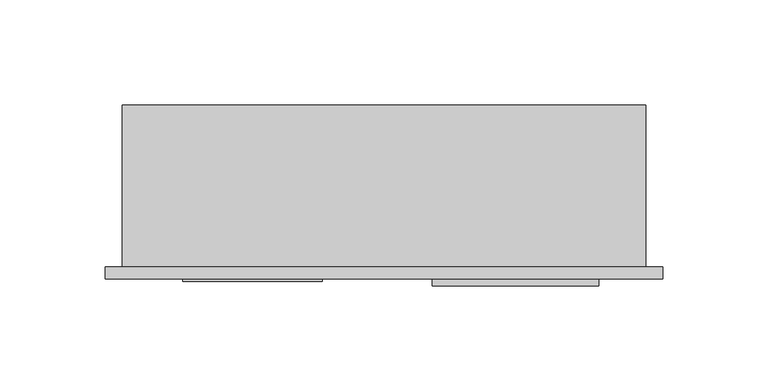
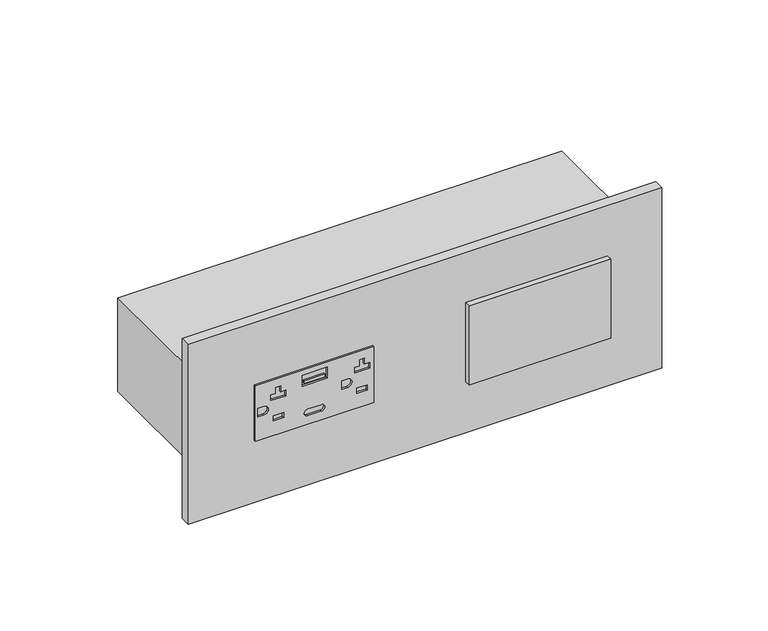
"""IFC4 building model written with IfcOpenShell, lengths in millimetres: proxy geometry, Electrical-Teknion-EPDHD_Horizontal_Power_Data_Double-R2019 : PD Horizontal Module - Double 20 Amp USB (A+C)."""

from ifc_helpers import new_model, si_unit, point, frame, frame_2d, origin, place, context, project, spatial, polyline, circle_curve, trimmed, segment, composite_curve, outline, extrude, source, transform, mapped, element, save


def electrical_fixtures_81150f9e(model_context):
    return source(origin(), model_context, "Body", "SweptSolid", [
        extrude(outline(polyline([(821.6131229, 28.6403983), (821.6131229, 95.1883983), (854.6077229, 95.1883983), (854.6077229, 28.6403983), (821.6131229, 28.6403983)]), holes=[polyline([(846.0827049, 40.1197211), (849.6102126, 40.1197211), (849.6102126, 42.8573384), (846.0827049, 42.8573384), (846.0827049, 45.7522735), (842.7521499, 45.7522735), (842.7521499, 37.4365232), (846.0827049, 37.4365232), (846.0827049, 40.1197211)]), composite_curve([segment(trimmed(circle_curve(frame_2d((838.1104229, 33.5112452)), 2.4638), [point((840.5742229, 33.5112452))], [point((835.6466229, 33.5112452))], True, "CARTESIAN"), True, "CONTINUOUS"), segment(polyline([(835.6466229, 33.5112452), (835.6466229, 30.1643983), (840.5742229, 30.1643983), (840.5742229, 33.5112452)]), True, "CONTINUOUS")], self_intersect=False), polyline([(833.2906533, 44.5059746), (830.3161837, 44.5059746), (830.3161837, 38.6828221), (833.2906533, 38.6828221), (833.2906533, 44.5059746)]), composite_curve([segment(trimmed(circle_curve(frame_2d((828.5727229, 65.6989983)), 1.905), [point((830.4777229, 65.6989983))], [point((826.6677229, 65.6989983))], True, "CARTESIAN"), True, "CONTINUOUS"), segment(polyline([(826.6677229, 65.6989983), (826.6677229, 58.1297983)]), True, "CONTINUOUS"), segment(trimmed(circle_curve(frame_2d((828.5727229, 58.1297983)), 1.905), [point((826.6677229, 58.1297983))], [point((830.4777229, 58.1297983))], True, "CARTESIAN"), True, "CONTINUOUS"), segment(polyline([(830.4777229, 58.1297983), (830.4777229, 65.6989983)]), True, "CONTINUOUS")], self_intersect=False), polyline([(851.6839163, 68.9581973), (845.1828612, 68.9581973), (845.1828612, 54.8644614), (851.6839163, 54.8644614), (851.6839163, 68.9581973)]), composite_curve([segment(trimmed(circle_curve(frame_2d((838.1104229, 80.4516358)), 2.4638), [point((840.5742229, 80.4516358))], [point((835.6466229, 80.4516358))], True, "CARTESIAN"), True, "CONTINUOUS"), segment(polyline([(835.6466229, 80.4516358), (835.6466229, 77.1543983), (840.5742229, 77.1543983), (840.5742229, 80.4516358)]), True, "CONTINUOUS")], self_intersect=False), polyline([(846.0795499, 87.1097211), (849.6102126, 87.1097211), (849.6102126, 89.8473384), (846.0795499, 89.8473384), (846.0795499, 92.7422735), (842.7521499, 92.7422735), (842.7521499, 84.4265232), (846.0795499, 84.4265232), (846.0795499, 87.1097211)]), polyline([(833.2717229, 91.4959746), (830.2973829, 91.4959746), (830.2973829, 85.6728221), (833.2717229, 85.6728221), (833.2717229, 91.4959746)])]), frame((0.0, -6.9294746, 0.0), z_axis=(0.0, 1.0, 0.0), x_axis=(0.0, 0.0, 1.0)), (0.0, 0.0, 1.0), 1.0366746),
        extrude(outline(polyline([(67.6331469, -6.9294746), (56.1895117, -6.9294746), (56.1895117, -5.8928), (67.6331469, -5.8928), (67.6331469, -6.9294746)])), frame((0.0, 0.0, 846.3926879), z_axis=(0.0, 0.0, 1.0), x_axis=(1.0, 0.0, 0.0)), (0.0, 0.0, 1.0), 1.5209293),
        extrude(outline(polyline([(147.3082675, -5.8928), (226.6832675, -5.8928), (226.6832675, -9.0678), (147.3082675, -9.0678), (147.3082675, -5.8928)])), frame((0.0, 0.0, 814.8854229), z_axis=(0.0, 0.0, 1.0), x_axis=(1.0, 0.0, 0.0)), (0.0, 0.0, 1.0), 46.863),
        extrude(outline(polyline([(-8.2450977, 0.0), (257.1652913, 0.0), (257.1652913, -5.8928), (-8.2450977, -5.8928), (-8.2450977, 0.0)])), frame((0.0, 0.0, 784.6718508), z_axis=(0.0, 0.0, 1.0), x_axis=(1.0, 0.0, 0.0)), (0.0, 0.0, 1.0), 106.8771443),
        extrude(outline(polyline([(248.92, 0.0), (0.0, 0.0), (0.0, 77.054), (248.92, 77.054), (248.92, 0.0)])), frame((0.0, 0.0, 810.3355229), z_axis=(0.0, 0.0, 1.0), x_axis=(1.0, 0.0, 0.0)), (0.0, 0.0, 1.0), 55.5498),
    ])


if __name__ == "__main__":
    model = new_model("IFC4")
    model_context = context("Model", 3, world=origin())
    ifc_project = project(units=[si_unit("LENGTHUNIT", "METRE", prefix="MILLI")], contexts=[model_context])
    site = spatial("IfcSite", under=ifc_project)
    building = spatial("IfcBuilding", under=site)
    placement = place(None, origin())
    electrical_fixtures_shape = electrical_fixtures_81150f9e(model_context)
    element("IfcBuildingElementProxy", 1, Name="Electrical-Teknion-EPDHD_Horizontal_Power_Data_Double-R2019 : PD Horizontal Module - Double 20 Amp USB (A+C)", ObjectType="Electrical-Teknion-EPDHD_Horizontal_Power_Data_Double-R2019 : PD Horizontal Module - Double 20 Amp USB (A+C)", at=placement, inside=building, context=model_context, shape_type="MappedRepresentation", body=[
        mapped(electrical_fixtures_shape, transform((0.0, 0.0, 0.0), x_axis=(1.0, 0.0, 0.0), y_axis=(0.0, 1.0, 0.0), z_axis=(0.0, 0.0, 1.0))),
    ])
    save(model, "model.ifc")
